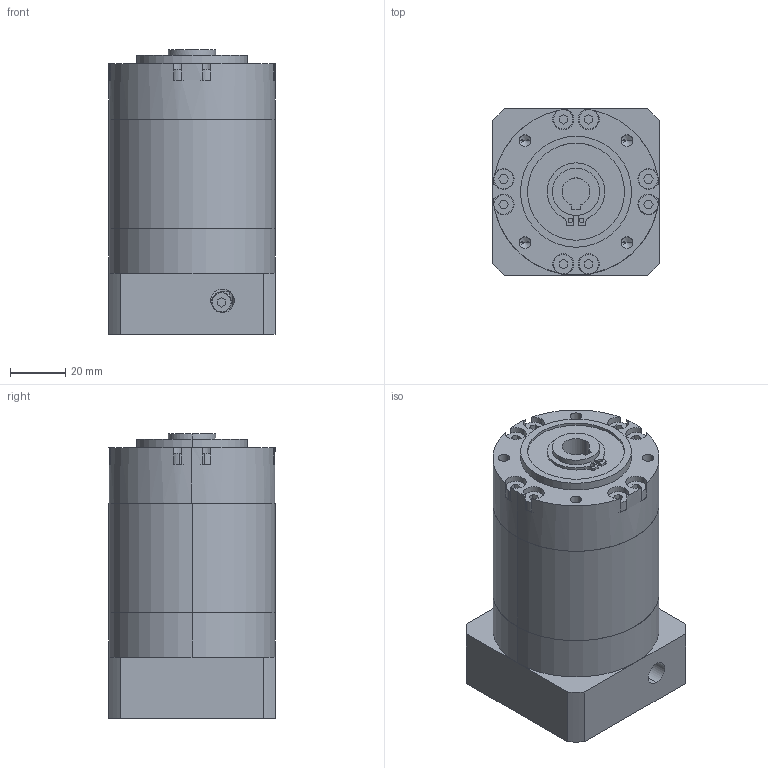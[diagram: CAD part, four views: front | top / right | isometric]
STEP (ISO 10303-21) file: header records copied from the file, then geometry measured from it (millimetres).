
FILE_DESCRIPTION (( 'STEP AP203' ), '1' );
FILE_NAME ('PRNF060-L2-20-57-8x31.STEP', '2020-12-08T01:38:59', ( 'USER-' ), ( 'MS' ), 'SwSTEP 2.0', 'SolidWorks 2018', '' );
FILE_SCHEMA (( 'CONFIG_CONTROL_DESIGN' ));
Length unit declared in the file: millimetre
Products named in the file (7): PRF60-_B____-_____D8-50 D9-70 D10-M10 L4-22 L6-32(22+10) L7-4 A2-60 R-39.5 ____^PRNF060-L2(2)_PRNF060-L2; PRNF060-L2-20-57-8x31; PRF60 _________________^PRNF060-L2(2)_PRNF060-L2; PRF60 ___w___D6-60 D7-14 ____^PRNF060-L2(2)_PRNF060-L2; __________-M4__12^PRNF060-L2(2)_PRNF060-L2; ____-6004 20x42x12^PRNF060-L2(2)_PRNF060-L2; PRL60 ___w__^PRNF060-L2(2)_PRNF060-L2
Assembly tree (6 placements, depth 2):
  PRNF060-L2-20-57-8x31
    PRF60 _________________^PRNF060-L2(2)_PRNF060-L2
    PRF60 ___w___D6-60 D7-14 ____^PRNF060-L2(2)_PRNF060-L2
    __________-M4__12^PRNF060-L2(2)_PRNF060-L2
    ____-6004 20x42x12^PRNF060-L2(2)_PRNF060-L2
    PRL60 ___w__^PRNF060-L2(2)_PRNF060-L2
    PRF60-_B____-_____D8-50 D9-70 D10-M10 L4-22 L6-32(22+10) L7-4 A2-60 R-39.5 ____^PRNF060-L2(2)_PRNF060-L2
Bounding box: 60 x 60 x 102.5 mm (x, y, z)
Volume: 263167.3 mm3; surface area: 67976.4 mm2
Topology: 6 solids, 6 shells, 503 faces, 1409 edges, 893 vertices
Faces by surface type: plane 169, cylinder 165, sphere 108, torus 42, cone 19
Entity records: 20361 total; most frequent: CARTESIAN_POINT 7032, ORIENTED_EDGE 2678, DIRECTION 2649, EDGE_CURVE 1339, AXIS2_PLACEMENT_3D 1111, VERTEX_POINT 875, CIRCLE 599, EDGE_LOOP 586
